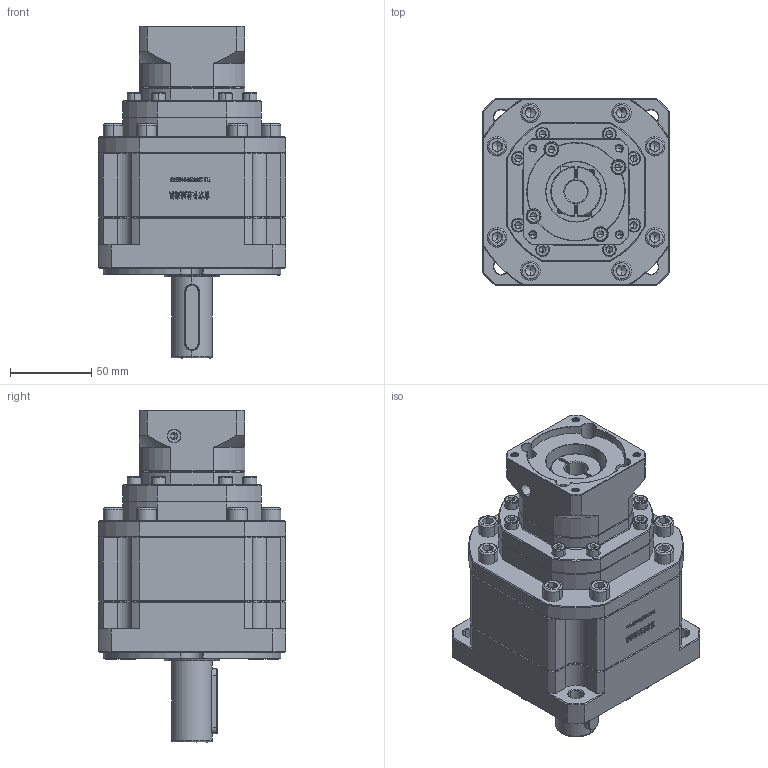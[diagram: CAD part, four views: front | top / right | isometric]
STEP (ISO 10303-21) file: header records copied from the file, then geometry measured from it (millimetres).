
FILE_DESCRIPTION (( 'STEP AP214' ), '1' );
FILE_NAME ('ZB115A-D25-L3-14-60-75-M5.step', '2023-03-03T09:53:09', ( '' ), ( 'Microsoft' ), 'SwSTEP 2.0', 'SolidWorks 2016', '' );
FILE_SCHEMA (( 'AUTOMOTIVE_DESIGN' ));
Length unit declared in the file: millimetre
Products named in the file (1): ZB115A-D25-L3-14-60-75-M5
Bounding box: 115 x 115 x 204 mm (x, y, z)
Volume: 1290261.6 mm3; surface area: 121704.8 mm2
Topology: 7 solids, 7 shells, 2289 faces, 5951 edges, 3767 vertices
Faces by surface type: plane 1126, cylinder 449, cone 347, bspline 345, torus 22
Entity records: 117421 total; most frequent: CARTESIAN_POINT 39069, ORIENTED_EDGE 11778, DIRECTION 9852, EDGE_CURVE 5889, VERTEX_POINT 3767, LINE 3660, VECTOR 3660, AXIS2_PLACEMENT_3D 3096
